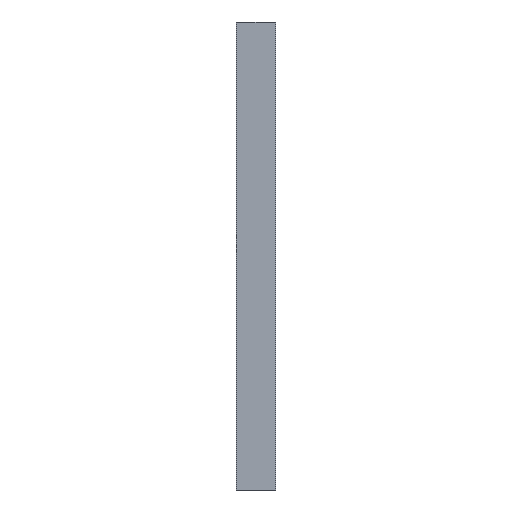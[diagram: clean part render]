
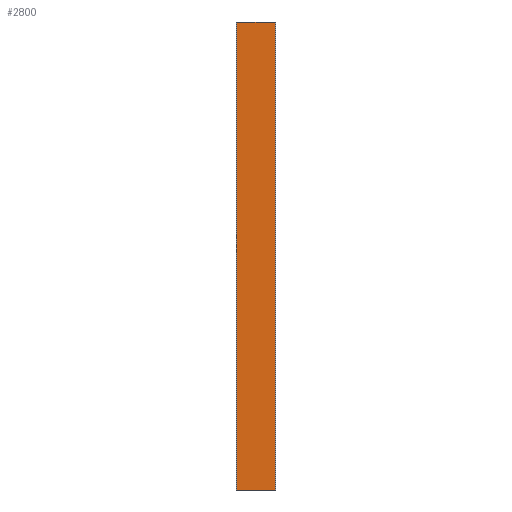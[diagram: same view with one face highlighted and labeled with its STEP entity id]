
A CAD part, left-side view. The second image highlights one B-rep face of the part: STEP entity #2800.
In plain terms, the highlighted planar face has unit normal (-1, 0, 0).
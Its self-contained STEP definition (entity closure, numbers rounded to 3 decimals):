
#174=PLANE('',#3046);
#570=ORIENTED_EDGE('',*,*,#1407,.T.);
#571=ORIENTED_EDGE('',*,*,#1408,.F.);
#572=ORIENTED_EDGE('',*,*,#1387,.F.);
#573=ORIENTED_EDGE('',*,*,#1409,.T.);
#1387=EDGE_CURVE('',#1784,#1785,#1997,.T.);
#1407=EDGE_CURVE('',#1804,#1805,#2004,.T.);
#1408=EDGE_CURVE('',#1785,#1805,#2005,.T.);
#1409=EDGE_CURVE('',#1784,#1804,#2006,.T.);
#1784=VERTEX_POINT('',#4665);
#1785=VERTEX_POINT('',#4667);
#1804=VERTEX_POINT('',#4707);
#1805=VERTEX_POINT('',#4708);
#1997=LINE('',#4666,#2219);
#2004=LINE('',#4706,#2226);
#2005=LINE('',#4709,#2227);
#2006=LINE('',#4710,#2228);
#2219=VECTOR('',#3528,1000.);
#2226=VECTOR('',#3563,1000.);
#2227=VECTOR('',#3564,1000.);
#2228=VECTOR('',#3565,1000.);
#2408=EDGE_LOOP('',(#570,#571,#572,#573));
#2556=FACE_BOUND('',#2408,.T.);
#2800=ADVANCED_FACE('',(#2556),#174,.F.);
#3046=AXIS2_PLACEMENT_3D('',#4705,#3561,#3562);
#3528=DIRECTION('',(0.,-1.,0.));
#3561=DIRECTION('',(1.,0.,0.));
#3562=DIRECTION('',(0.,1.,0.));
#3563=DIRECTION('',(0.,-1.,0.));
#3564=DIRECTION('',(0.,0.,-1.));
#3565=DIRECTION('',(0.,0.,-1.));
#4665=CARTESIAN_POINT('',(-14.,40.5,288.5));
#4666=CARTESIAN_POINT('',(-14.,-7.5,288.5));
#4667=CARTESIAN_POINT('',(-14.,-7.5,288.5));
#4705=CARTESIAN_POINT('',(-14.,-7.5,288.5));
#4706=CARTESIAN_POINT('',(-14.,-7.5,-288.5));
#4707=CARTESIAN_POINT('',(-14.,40.5,-288.5));
#4708=CARTESIAN_POINT('',(-14.,-7.5,-288.5));
#4709=CARTESIAN_POINT('',(-14.,-7.5,288.5));
#4710=CARTESIAN_POINT('',(-14.,40.5,288.5));
